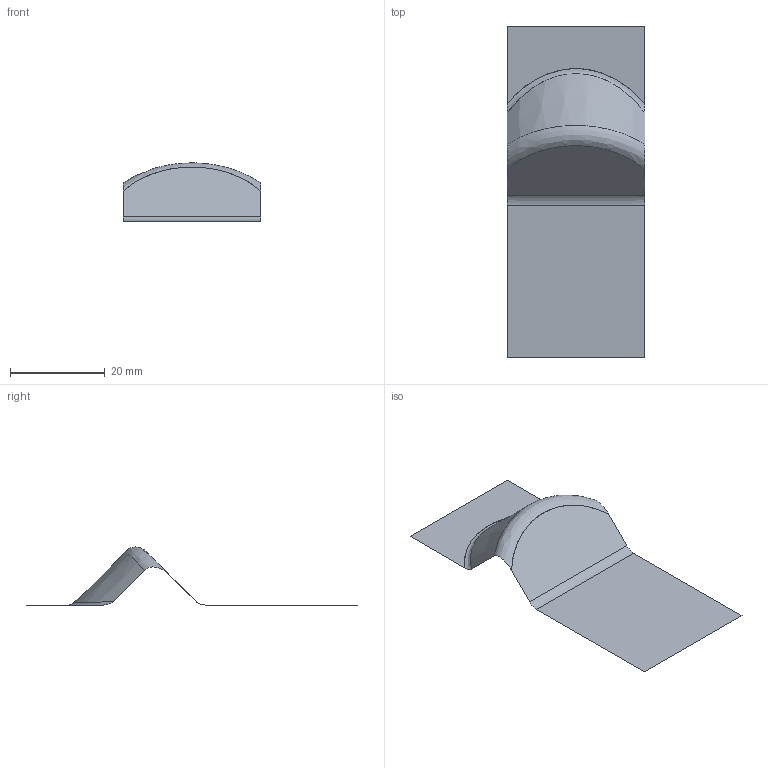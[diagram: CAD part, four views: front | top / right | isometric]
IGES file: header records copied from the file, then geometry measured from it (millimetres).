
Global section: native system: STRIM 100 CFAO 3D5.1.3; preprocessor: 5.1.3; date: 931213.164559; units: millimetre
Bounding box: 29 x 70 x 12.25 mm (x, y, z)
Surface area: 2321.8 mm2 (no closed solid volume)
Topology: 0 solids, 0 shells, 7 faces, 28 edges, 28 vertices
Faces by surface type: bspline 7
